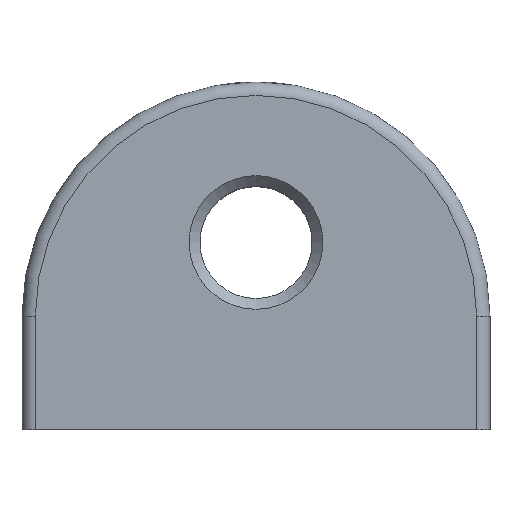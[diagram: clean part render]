
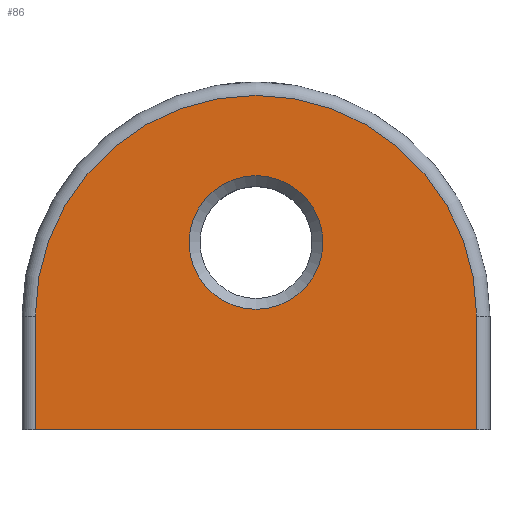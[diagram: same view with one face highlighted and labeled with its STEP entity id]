
A CAD part, top view. The second image highlights one B-rep face of the part: STEP entity #86.
In plain terms, the highlighted planar face has unit normal (0, 0, 1).
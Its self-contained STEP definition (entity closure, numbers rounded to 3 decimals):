
#86 = ADVANCED_FACE( '', ( #148, #149 ), #150, .F. );
#148 = FACE_BOUND( '', #254, .T. );
#149 = FACE_OUTER_BOUND( '', #255, .T. );
#150 = PLANE( '', #256 );
#254 = EDGE_LOOP( '', ( #413 ) );
#255 = EDGE_LOOP( '', ( #414, #415, #416, #417 ) );
#256 = AXIS2_PLACEMENT_3D( '', #418, #419, #420 );
#413 = ORIENTED_EDGE( '', *, *, #621, .T. );
#414 = ORIENTED_EDGE( '', *, *, #651, .F. );
#415 = ORIENTED_EDGE( '', *, *, #628, .F. );
#416 = ORIENTED_EDGE( '', *, *, #652, .T. );
#417 = ORIENTED_EDGE( '', *, *, #644, .T. );
#418 = CARTESIAN_POINT( '', ( -16.5, 8.5, 6. ) );
#419 = DIRECTION( '', ( 0., 0., -1. ) );
#420 = DIRECTION( '', ( -1., 0., 0. ) );
#621 = EDGE_CURVE( '', #707, #707, #708, .T. );
#628 = EDGE_CURVE( '', #720, #722, #723, .T. );
#644 = EDGE_CURVE( '', #752, #750, #753, .T. );
#651 = EDGE_CURVE( '', #722, #750, #761, .T. );
#652 = EDGE_CURVE( '', #720, #752, #762, .T. );
#707 = VERTEX_POINT( '', #951 );
#708 = CIRCLE( '', #952, 5. );
#720 = VERTEX_POINT( '', #964 );
#722 = VERTEX_POINT( '', #966 );
#723 = CIRCLE( '', #967, 16.5 );
#750 = VERTEX_POINT( '', #1003 );
#752 = VERTEX_POINT( '', #1005 );
#753 = LINE( '', #1006, #1007 );
#761 = LINE( '', #1019, #1020 );
#762 = LINE( '', #1021, #1022 );
#951 = CARTESIAN_POINT( '', ( -5., 14., 6. ) );
#952 = AXIS2_PLACEMENT_3D( '', #1130, #1131, #1132 );
#964 = CARTESIAN_POINT( '', ( -16.5, 8.5, 6. ) );
#966 = CARTESIAN_POINT( '', ( 16.5, 8.5, 6. ) );
#967 = AXIS2_PLACEMENT_3D( '', #1151, #1152, #1153 );
#1003 = CARTESIAN_POINT( '', ( 16.5, 0., 6. ) );
#1005 = CARTESIAN_POINT( '', ( -16.5, 0., 6. ) );
#1006 = CARTESIAN_POINT( '', ( -16.5, 0., 6. ) );
#1007 = VECTOR( '', #1181, 1000. );
#1019 = CARTESIAN_POINT( '', ( 16.5, 8.5, 6. ) );
#1020 = VECTOR( '', #1192, 1000. );
#1021 = CARTESIAN_POINT( '', ( -16.5, 8.5, 6. ) );
#1022 = VECTOR( '', #1193, 1000. );
#1130 = CARTESIAN_POINT( '', ( 0., 14., 6. ) );
#1131 = DIRECTION( '', ( 0., 0., -1. ) );
#1132 = DIRECTION( '', ( -1., 0., 0. ) );
#1151 = CARTESIAN_POINT( '', ( 0., 8.5, 6. ) );
#1152 = DIRECTION( '', ( 0., 0., -1. ) );
#1153 = DIRECTION( '', ( -1., 0., 0. ) );
#1181 = DIRECTION( '', ( 1., 0., 0. ) );
#1192 = DIRECTION( '', ( 0., -1., 0. ) );
#1193 = DIRECTION( '', ( 0., -1., 0. ) );
